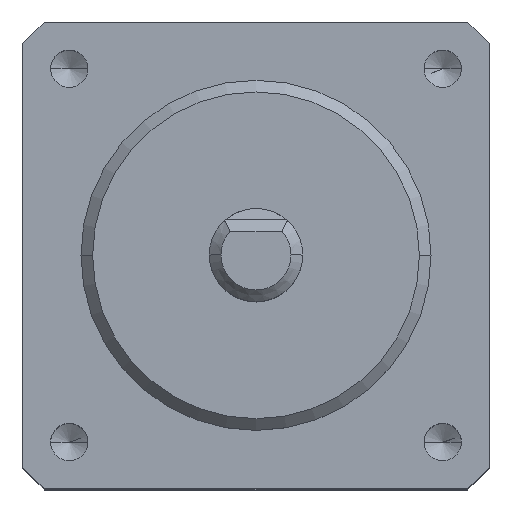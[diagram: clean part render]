
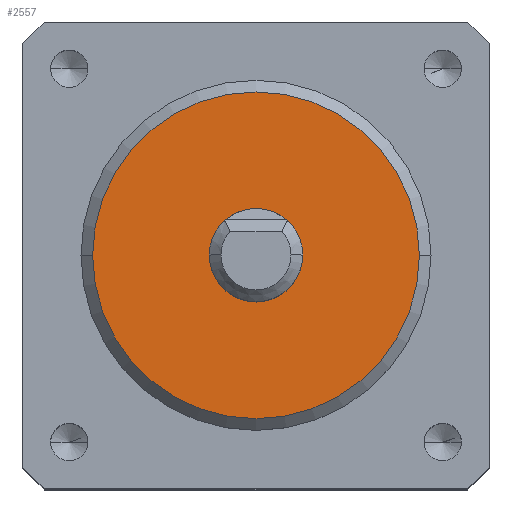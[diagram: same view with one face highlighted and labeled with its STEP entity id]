
A CAD part, top view. The second image highlights one B-rep face of the part: STEP entity #2557.
In plain terms, the highlighted planar face has unit normal (0, 0, 1).
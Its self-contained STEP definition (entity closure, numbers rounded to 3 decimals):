
#66 = EDGE_LOOP ( 'NONE', ( #1642, #372 ) ) ;
#190 = EDGE_CURVE ( 'NONE', #2074, #733, #2646, .T. ) ;
#224 = CARTESIAN_POINT ( 'NONE',  ( 0., 0., 1.5 ) ) ;
#368 = DIRECTION ( 'NONE',  ( 1., 0., 0. ) ) ;
#372 = ORIENTED_EDGE ( 'NONE', *, *, #190, .T. ) ;
#384 = EDGE_CURVE ( 'NONE', #1658, #966, #2981, .T. ) ;
#436 = EDGE_LOOP ( 'NONE', ( #2289, #500 ) ) ;
#500 = ORIENTED_EDGE ( 'NONE', *, *, #2386, .T. ) ;
#591 = EDGE_CURVE ( 'NONE', #733, #2074, #2539, .T. ) ;
#692 = FACE_BOUND ( 'NONE', #436, .T. ) ;
#729 = CIRCLE ( 'NONE', #2189, 2. ) ;
#733 = VERTEX_POINT ( 'NONE', #1145 ) ;
#966 = VERTEX_POINT ( 'NONE', #2182 ) ;
#1083 = CARTESIAN_POINT ( 'NONE',  ( -2., 0., 1.5 ) ) ;
#1145 = CARTESIAN_POINT ( 'NONE',  ( -7., 0., 1.5 ) ) ;
#1218 = CARTESIAN_POINT ( 'NONE',  ( 0., 0., 1.5 ) ) ;
#1373 = AXIS2_PLACEMENT_3D ( 'NONE', #1545, #1529, #1518 ) ;
#1453 = DIRECTION ( 'NONE',  ( 1., 0., 0. ) ) ;
#1503 = AXIS2_PLACEMENT_3D ( 'NONE', #2662, #1740, #368 ) ;
#1518 = DIRECTION ( 'NONE',  ( 1., 0., 0. ) ) ;
#1529 = DIRECTION ( 'NONE',  ( 0., 0., 1. ) ) ;
#1545 = CARTESIAN_POINT ( 'NONE',  ( 0., 0., 1.5 ) ) ;
#1569 = DIRECTION ( 'NONE',  ( 1., 0., 0. ) ) ;
#1642 = ORIENTED_EDGE ( 'NONE', *, *, #591, .T. ) ;
#1658 = VERTEX_POINT ( 'NONE', #1083 ) ;
#1740 = DIRECTION ( 'NONE',  ( 0., 0., 1. ) ) ;
#1741 = AXIS2_PLACEMENT_3D ( 'NONE', #224, #2708, #1569 ) ;
#2074 = VERTEX_POINT ( 'NONE', #2494 ) ;
#2182 = CARTESIAN_POINT ( 'NONE',  ( 2., 0., 1.5 ) ) ;
#2189 = AXIS2_PLACEMENT_3D ( 'NONE', #1218, #2843, #1453 ) ;
#2202 = PLANE ( 'NONE',  #1503 ) ;
#2289 = ORIENTED_EDGE ( 'NONE', *, *, #384, .T. ) ;
#2386 = EDGE_CURVE ( 'NONE', #966, #1658, #729, .T. ) ;
#2398 = FACE_OUTER_BOUND ( 'NONE', #66, .T. ) ;
#2494 = CARTESIAN_POINT ( 'NONE',  ( 7., 0., 1.5 ) ) ;
#2530 = AXIS2_PLACEMENT_3D ( 'NONE', #2864, #2883, #2650 ) ;
#2539 = CIRCLE ( 'NONE', #1373, 7. ) ;
#2557 = ADVANCED_FACE ( 'NONE', ( #2398, #692 ), #2202, .T. ) ;
#2646 = CIRCLE ( 'NONE', #2530, 7. ) ;
#2650 = DIRECTION ( 'NONE',  ( 1., 0., 0. ) ) ;
#2662 = CARTESIAN_POINT ( 'NONE',  ( 0., 0., 1.5 ) ) ;
#2708 = DIRECTION ( 'NONE',  ( 0., 0., -1. ) ) ;
#2843 = DIRECTION ( 'NONE',  ( 0., 0., -1. ) ) ;
#2864 = CARTESIAN_POINT ( 'NONE',  ( 0., 0., 1.5 ) ) ;
#2883 = DIRECTION ( 'NONE',  ( 0., 0., 1. ) ) ;
#2981 = CIRCLE ( 'NONE', #1741, 2. ) ;
